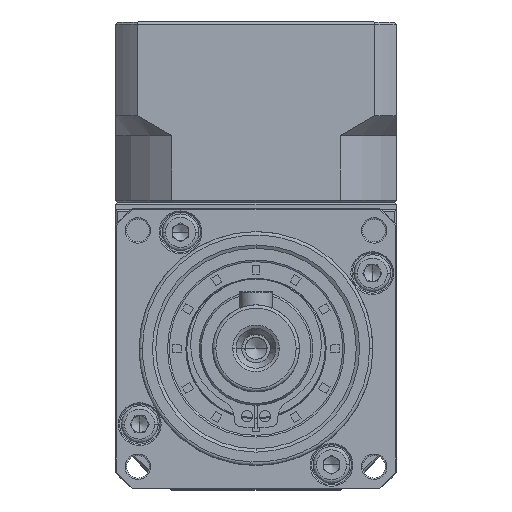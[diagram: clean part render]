
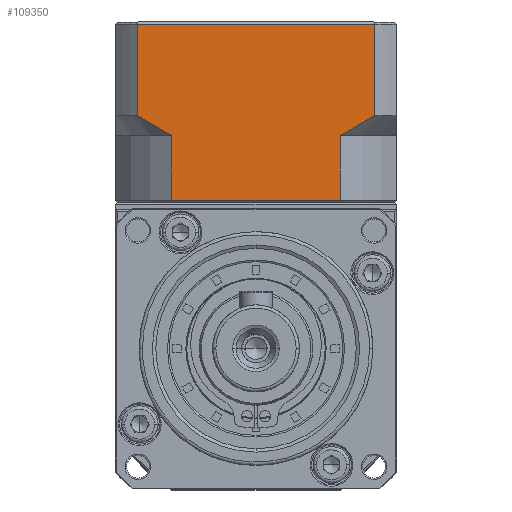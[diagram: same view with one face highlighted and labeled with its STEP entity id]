
A CAD part, top view. The second image highlights one B-rep face of the part: STEP entity #109350.
In plain terms, the highlighted planar face has unit normal (0, 0, 1).
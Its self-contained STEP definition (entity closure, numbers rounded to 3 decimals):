
#2032 = EDGE_CURVE ( 'NONE', #115348, #17454, #58260, .T. ) ;
#2377 = VECTOR ( 'NONE', #109227, 1000. ) ;
#2941 = CARTESIAN_POINT ( 'NONE',  ( 46.968, 42.114, 64.307 ) ) ;
#3657 = VECTOR ( 'NONE', #112385, 1000. ) ;
#3970 = LINE ( 'NONE', #64562, #72187 ) ;
#8673 = ORIENTED_EDGE ( 'NONE', *, *, #102209, .T. ) ;
#8795 = VECTOR ( 'NONE', #117907, 1000. ) ;
#11967 = B_SPLINE_CURVE_WITH_KNOTS ( 'NONE', 3,
 ( #37950, #55653, #126507, #36652 ),
 .UNSPECIFIED., .F., .F.,
 ( 4, 4 ),
 ( 0., 0.006 ),
 .UNSPECIFIED. ) ;
#12997 = LINE ( 'NONE', #84461, #57864 ) ;
#13451 = DIRECTION ( 'NONE',  ( 0., 1., 0. ) ) ;
#14514 = CARTESIAN_POINT ( 'NONE',  ( 19.964, 52.723, 64.307 ) ) ;
#17454 = VERTEX_POINT ( 'NONE', #73442 ) ;
#18999 = ORIENTED_EDGE ( 'NONE', *, *, #62817, .T. ) ;
#19032 = VERTEX_POINT ( 'NONE', #73147 ) ;
#21648 = CARTESIAN_POINT ( 'NONE',  ( 46.968, 51.814, 64.307 ) ) ;
#27107 = PLANE ( 'NONE',  #77771 ) ;
#30098 = LINE ( 'NONE', #88918, #2377 ) ;
#30710 = EDGE_CURVE ( 'NONE', #37724, #102992, #11967, .T. ) ;
#32607 = CARTESIAN_POINT ( 'NONE',  ( 18.261, 53.737, 64.307 ) ) ;
#36652 = CARTESIAN_POINT ( 'NONE',  ( 52.104, 54.814, 64.307 ) ) ;
#37724 = VERTEX_POINT ( 'NONE', #21648 ) ;
#37950 = CARTESIAN_POINT ( 'NONE',  ( 46.968, 51.814, 64.307 ) ) ;
#41922 = ORIENTED_EDGE ( 'NONE', *, *, #30710, .T. ) ;
#42075 = ORIENTED_EDGE ( 'NONE', *, *, #52136, .F. ) ;
#42996 = CARTESIAN_POINT ( 'NONE',  ( 21.729, 51.814, 64.307 ) ) ;
#43805 = LINE ( 'NONE', #91625, #3657 ) ;
#44905 = VERTEX_POINT ( 'NONE', #68565 ) ;
#46720 = DIRECTION ( 'NONE',  ( -1., 0., 0. ) ) ;
#47094 = ORIENTED_EDGE ( 'NONE', *, *, #76841, .F. ) ;
#50182 = CARTESIAN_POINT ( 'NONE',  ( 55.349, 68.514, 64.307 ) ) ;
#51968 = ORIENTED_EDGE ( 'NONE', *, *, #113961, .T. ) ;
#52136 = EDGE_CURVE ( 'NONE', #83029, #19032, #65628, .T. ) ;
#55324 = ORIENTED_EDGE ( 'NONE', *, *, #95211, .T. ) ;
#55653 = CARTESIAN_POINT ( 'NONE',  ( 48.733, 52.723, 64.307 ) ) ;
#57864 = VECTOR ( 'NONE', #13451, 1000. ) ;
#58260 = LINE ( 'NONE', #50182, #8795 ) ;
#62817 = EDGE_CURVE ( 'NONE', #44905, #125072, #68555, .T. ) ;
#64562 = CARTESIAN_POINT ( 'NONE',  ( 21.729, 41.814, 64.307 ) ) ;
#65628 = LINE ( 'NONE', #102379, #95172 ) ;
#68555 = B_SPLINE_CURVE_WITH_KNOTS ( 'NONE', 3,
 ( #100343, #32607, #14514, #42996 ),
 .UNSPECIFIED., .F., .F.,
 ( 4, 4 ),
 ( 0., 0.006 ),
 .UNSPECIFIED. ) ;
#68565 = CARTESIAN_POINT ( 'NONE',  ( 16.594, 54.814, 64.307 ) ) ;
#69841 = CARTESIAN_POINT ( 'NONE',  ( 52.104, 54.814, 64.307 ) ) ;
#72187 = VECTOR ( 'NONE', #72457, 1000. ) ;
#72457 = DIRECTION ( 'NONE',  ( 0., -1., 0. ) ) ;
#73147 = CARTESIAN_POINT ( 'NONE',  ( 21.729, 42.114, 64.307 ) ) ;
#73442 = CARTESIAN_POINT ( 'NONE',  ( 16.594, 68.514, 64.307 ) ) ;
#75209 = CARTESIAN_POINT ( 'NONE',  ( 52.104, 68.514, 64.307 ) ) ;
#76841 = EDGE_CURVE ( 'NONE', #37724, #83029, #30098, .T. ) ;
#77771 = AXIS2_PLACEMENT_3D ( 'NONE', #96518, #126459, #106461 ) ;
#79234 = EDGE_LOOP ( 'NONE', ( #8673, #18999, #55324, #42075, #47094, #41922, #51968, #96782 ) ) ;
#83029 = VERTEX_POINT ( 'NONE', #2941 ) ;
#84461 = CARTESIAN_POINT ( 'NONE',  ( 52.104, 41.814, 64.307 ) ) ;
#88918 = CARTESIAN_POINT ( 'NONE',  ( 46.968, 21.649, 64.307 ) ) ;
#89812 = FACE_OUTER_BOUND ( 'NONE', #79234, .T. ) ;
#91625 = CARTESIAN_POINT ( 'NONE',  ( 16.594, 41.814, 64.307 ) ) ;
#95172 = VECTOR ( 'NONE', #46720, 1000. ) ;
#95211 = EDGE_CURVE ( 'NONE', #125072, #19032, #3970, .T. ) ;
#96518 = CARTESIAN_POINT ( 'NONE',  ( 55.349, 41.814, 64.307 ) ) ;
#96782 = ORIENTED_EDGE ( 'NONE', *, *, #2032, .T. ) ;
#100343 = CARTESIAN_POINT ( 'NONE',  ( 16.594, 54.814, 64.307 ) ) ;
#102209 = EDGE_CURVE ( 'NONE', #17454, #44905, #43805, .T. ) ;
#102379 = CARTESIAN_POINT ( 'NONE',  ( 55.349, 42.114, 64.307 ) ) ;
#102992 = VERTEX_POINT ( 'NONE', #69841 ) ;
#106461 = DIRECTION ( 'NONE',  ( -1., 0., 0. ) ) ;
#109227 = DIRECTION ( 'NONE',  ( 0., -1., 0. ) ) ;
#109350 = ADVANCED_FACE ( 'NONE', ( #89812 ), #27107, .T. ) ;
#112385 = DIRECTION ( 'NONE',  ( 0., -1., 0. ) ) ;
#113961 = EDGE_CURVE ( 'NONE', #102992, #115348, #12997, .T. ) ;
#115348 = VERTEX_POINT ( 'NONE', #75209 ) ;
#117907 = DIRECTION ( 'NONE',  ( -1., 0., 0. ) ) ;
#123036 = CARTESIAN_POINT ( 'NONE',  ( 21.729, 51.814, 64.307 ) ) ;
#125072 = VERTEX_POINT ( 'NONE', #123036 ) ;
#126459 = DIRECTION ( 'NONE',  ( 0., 0., 1. ) ) ;
#126507 = CARTESIAN_POINT ( 'NONE',  ( 50.437, 53.737, 64.307 ) ) ;
